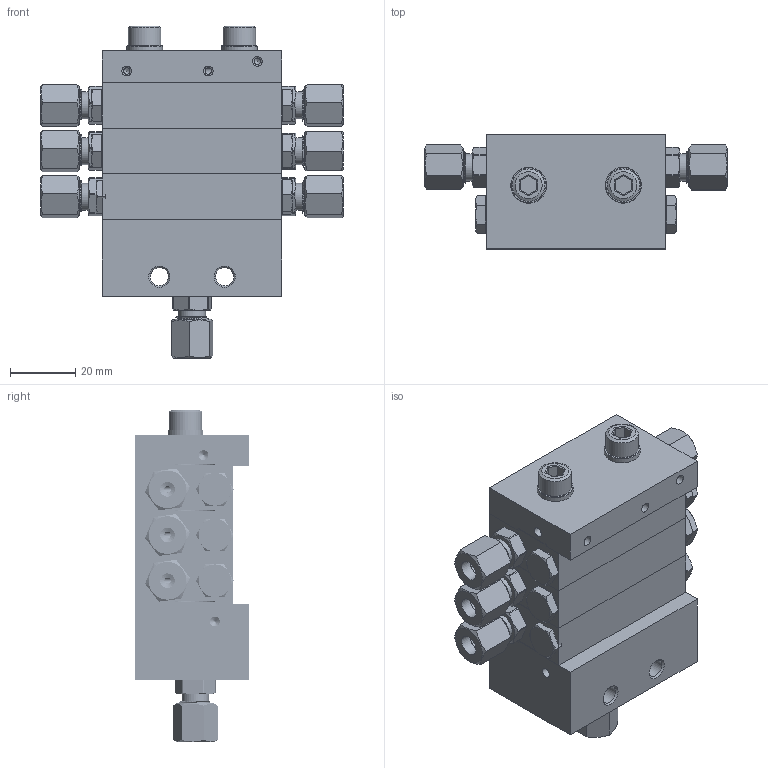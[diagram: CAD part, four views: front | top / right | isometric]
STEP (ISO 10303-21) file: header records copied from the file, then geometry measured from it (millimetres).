
FILE_DESCRIPTION (( 'STEP AP214' ), '1' );
FILE_NAME ('STW_XV_0143_06_050_6_Auslässe.STEP', '2026-01-28T14:29:38', ( '' ), ( '' ), 'SwSTEP 2.0', 'SolidWorks 2022', '' );
FILE_SCHEMA (( 'AUTOMOTIVE_DESIGN' ));
Length unit declared in the file: millimetre
Products named in the file (13): STW_XV_ENGANG; U_Scheibe_6; STW_XV_0143_06_050_6_Auslässe; STW_XV_Verbindungsstopen; STW_XV_MITTEL_1; 991214010601_Schneidring; STW_XV_END; STW_XV_Kolbenanschlag; 991214010601_Mutter; M6X65_DIN_912; 991214010601; 991214010601_Koerper; Verschlussstopfen_1_8_2
Assembly tree (34 placements, depth 3):
  STW_XV_0143_06_050_6_Auslässe
    STW_XV_ENGANG
    STW_XV_MITTEL_1  x3
    STW_XV_END
    Verschlussstopfen_1_8_2  x6
    STW_XV_Kolbenanschlag  x6
    STW_XV_Verbindungsstopen  x3
    M6X65_DIN_912  x2
    U_Scheibe_6  x2
    991214010601  x7
      991214010601_Koerper
      991214010601_Schneidring
      991214010601_Mutter
Bounding box: 92.76 x 35 x 101.68 mm (x, y, z)
Volume: 138935.3 mm3; surface area: 73694.8 mm2
Topology: 45 solids, 45 shells, 1527 faces, 3867 edges, 2490 vertices
Faces by surface type: plane 702, cylinder 435, cone 246, bspline 138, torus 6
Full cylindrical faces by diameter (mm): 2 x89, 3 x10, 4.5 x7, 5 x38, 5.5 x2, 5.9 x2, 6 x9, 6.2 x15, 6.4 x2, 6.5 x6, 7 x6, 7.4 x7, 7.67 x7, 8 x13, 8.3 x7, 8.4 x3, 8.6 x15, 9 x14, 9.7 x6, 9.73 x3, 9.8 x49, 10 x8, 11 x2, 15 x1
Entity records: 40545 total; most frequent: CARTESIAN_POINT 20478, ORIENTED_EDGE 2738, DIRECTION 2301, EDGE_CURVE 1369, VERTEX_POINT 974, EDGE_LOOP 901, AXIS2_PLACEMENT_3D 801, FACE_OUTER_BOUND 724
